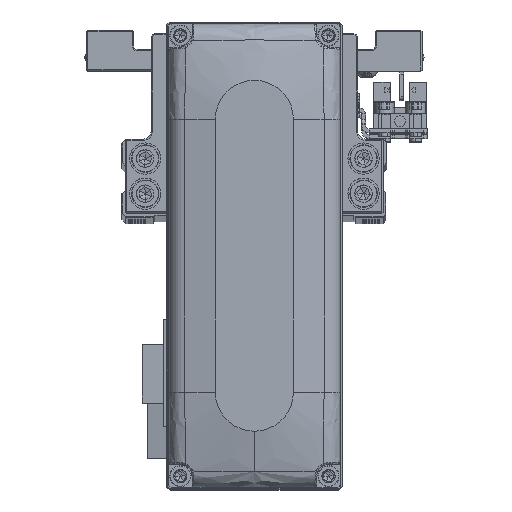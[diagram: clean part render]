
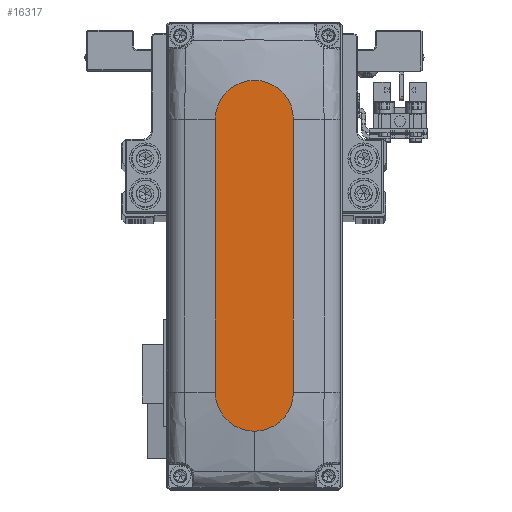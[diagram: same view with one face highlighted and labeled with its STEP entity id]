
A CAD part, top view. The second image highlights one B-rep face of the part: STEP entity #16317.
In plain terms, the highlighted planar face has unit normal (0, 0, 1).
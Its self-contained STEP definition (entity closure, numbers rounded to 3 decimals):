
#197 = EDGE_CURVE ( 'NONE', #36560, #11651, #21244, .T. ) ;
#905 = CIRCLE ( 'NONE', #24702, 10. ) ;
#1448 = DIRECTION ( 'NONE',  ( 0., 0., 1. ) ) ;
#2139 = ORIENTED_EDGE ( 'NONE', *, *, #4280, .T. ) ;
#2147 = ORIENTED_EDGE ( 'NONE', *, *, #12301, .T. ) ;
#2386 = ORIENTED_EDGE ( 'NONE', *, *, #2636, .T. ) ;
#2636 = EDGE_CURVE ( 'NONE', #41136, #38860, #16927, .T. ) ;
#4280 = EDGE_CURVE ( 'NONE', #21893, #36560, #36119, .T. ) ;
#5815 = CARTESIAN_POINT ( 'NONE',  ( 35., 10., 28. ) ) ;
#6167 = LINE ( 'NONE', #19160, #18211 ) ;
#6504 = AXIS2_PLACEMENT_3D ( 'NONE', #39887, #10773, #23776 ) ;
#6978 = CARTESIAN_POINT ( 'NONE',  ( -35., 10., 28. ) ) ;
#7248 = CARTESIAN_POINT ( 'NONE',  ( -35., -10., 28. ) ) ;
#8015 = CARTESIAN_POINT ( 'NONE',  ( -35., 10., 28. ) ) ;
#8841 = DIRECTION ( 'NONE',  ( 1., 0., 0. ) ) ;
#9033 = DIRECTION ( 'NONE',  ( 1., 0., 0. ) ) ;
#10773 = DIRECTION ( 'NONE',  ( 0., 0., 1. ) ) ;
#11651 = VERTEX_POINT ( 'NONE', #7248 ) ;
#12301 = EDGE_CURVE ( 'NONE', #38860, #21893, #905, .T. ) ;
#13955 = FACE_OUTER_BOUND ( 'NONE', #37626, .T. ) ;
#14414 = DIRECTION ( 'NONE',  ( 1., 0., 0. ) ) ;
#16317 = ADVANCED_FACE ( 'NONE', ( #13955 ), #26941, .T. ) ;
#16927 = CIRCLE ( 'NONE', #40668, 10. ) ;
#18211 = VECTOR ( 'NONE', #32131, 1000. ) ;
#19160 = CARTESIAN_POINT ( 'NONE',  ( -35., -10., 28. ) ) ;
#19969 = DIRECTION ( 'NONE',  ( -1., 0., 0. ) ) ;
#20570 = AXIS2_PLACEMENT_3D ( 'NONE', #25226, #38168, #9033 ) ;
#20810 = CARTESIAN_POINT ( 'NONE',  ( 45., 0., 28. ) ) ;
#21244 = CIRCLE ( 'NONE', #20570, 10. ) ;
#21275 = ORIENTED_EDGE ( 'NONE', *, *, #197, .T. ) ;
#21893 = VERTEX_POINT ( 'NONE', #5815 ) ;
#23776 = DIRECTION ( 'NONE',  ( 1., 0., 0. ) ) ;
#24519 = VECTOR ( 'NONE', #19969, 1000. ) ;
#24702 = AXIS2_PLACEMENT_3D ( 'NONE', #25030, #37963, #8841 ) ;
#25030 = CARTESIAN_POINT ( 'NONE',  ( 35., 0., 28. ) ) ;
#25226 = CARTESIAN_POINT ( 'NONE',  ( -35., 0., 28. ) ) ;
#26941 = PLANE ( 'NONE',  #6504 ) ;
#30614 = CARTESIAN_POINT ( 'NONE',  ( 35., 0., 28. ) ) ;
#30720 = CARTESIAN_POINT ( 'NONE',  ( 35., -10., 28. ) ) ;
#32131 = DIRECTION ( 'NONE',  ( 1., 0., 0. ) ) ;
#32652 = ORIENTED_EDGE ( 'NONE', *, *, #39946, .T. ) ;
#36119 = LINE ( 'NONE', #6978, #24519 ) ;
#36560 = VERTEX_POINT ( 'NONE', #8015 ) ;
#37626 = EDGE_LOOP ( 'NONE', ( #2139, #21275, #32652, #2386, #2147 ) ) ;
#37963 = DIRECTION ( 'NONE',  ( 0., 0., 1. ) ) ;
#38168 = DIRECTION ( 'NONE',  ( 0., 0., 1. ) ) ;
#38860 = VERTEX_POINT ( 'NONE', #20810 ) ;
#39887 = CARTESIAN_POINT ( 'NONE',  ( 0., 0., 28. ) ) ;
#39946 = EDGE_CURVE ( 'NONE', #11651, #41136, #6167, .T. ) ;
#40668 = AXIS2_PLACEMENT_3D ( 'NONE', #30614, #1448, #14414 ) ;
#41136 = VERTEX_POINT ( 'NONE', #30720 ) ;
